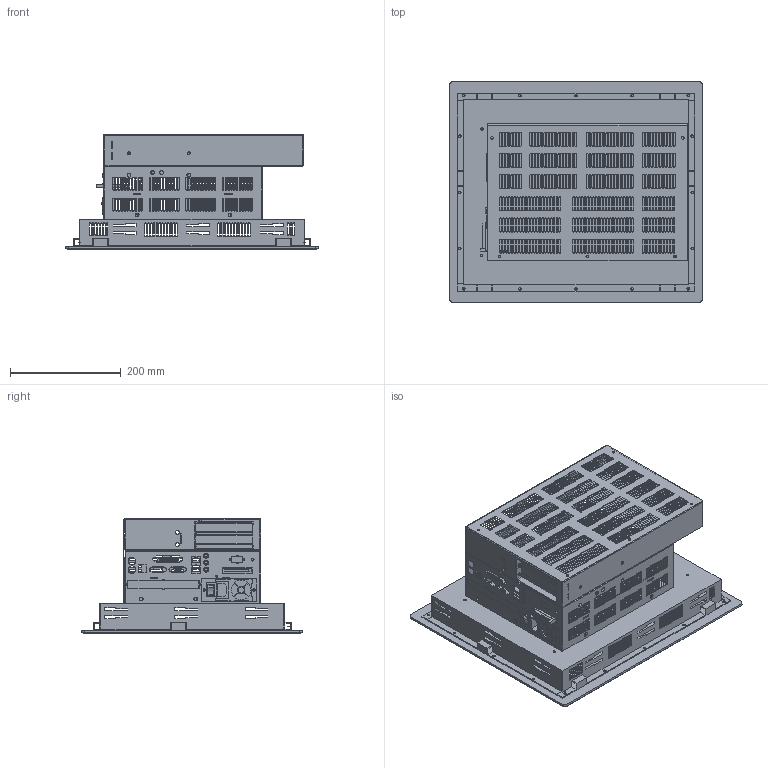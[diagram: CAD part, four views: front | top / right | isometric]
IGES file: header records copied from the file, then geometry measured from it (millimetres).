
Start section:  PTC IGES file: hp_18_full.igs
Global section: file name: hp_18_full.igs; native system: Pro/ENGINEER by Parametric Technology Corporation; preprocessor: 2000100; author: srollman; organization: Unknown; date: 050107.100312; units: inch
Bounding box: 456.67 x 398.78 x 208.79 mm (x, y, z)
Surface area: 813195.7 mm2 (no closed solid volume)
Topology: 0 solids, 0 shells, 180 faces, 4384 edges, 4381 vertices
Faces by surface type: bspline 145, revolution 35
